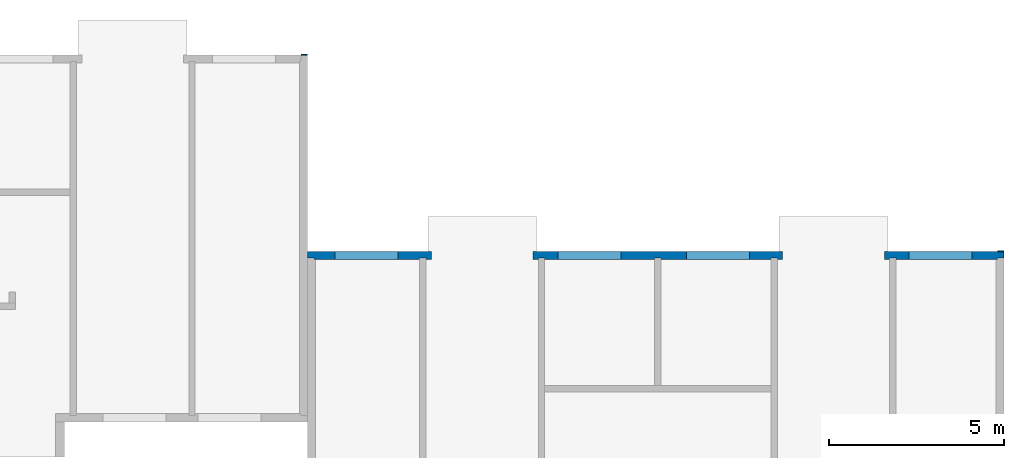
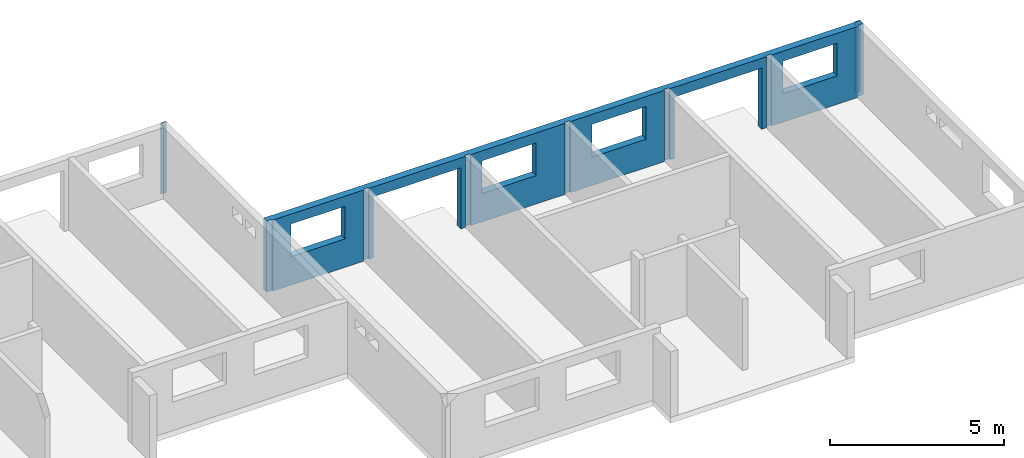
# One storey, part 9 of 9: 3 walls, 6 openings.
"""IFC2X3 building model written with IfcOpenShell, lengths in millimetres."""

from ifc_helpers import new_model, entity, si_unit, converted_unit, frame, frame_2d, origin, origin_with_axes, place, context, subcontext, project, spatial, polyline, rectangle, outline, extrude, material, layer, layer_set, layer_usage, element, save


model = new_model("IFC2X3")

# Units and contexts
model_context = context("Model", 3, precision=1e-05, world=origin())
plan_context = context("Plan", 3, precision=1e-05, world=origin())
body_context = subcontext(model_context, "Body", "Model", "MODEL_VIEW")
ifc_project = project(units=[si_unit("LENGTHUNIT", "METRE", prefix="MILLI"), converted_unit("PLANEANGLEUNIT", "DEGREE", entity("IfcPlaneAngleMeasure", 0.0174532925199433), si_unit("PLANEANGLEUNIT", "RADIAN"), dimensions=[0, 0, 0, 0, 0, 0, 0]), si_unit("AREAUNIT", "SQUARE_METRE"), si_unit("VOLUMEUNIT", "CUBIC_METRE")], contexts=[model_context, plan_context])

# Building, storey
building_placement = place(None, origin())
building = spatial("IfcBuilding", under=ifc_project, at=building_placement, Name="Bâtiment", CompositionType="ELEMENT")
storey_placement = place(building_placement, origin_with_axes())
storey = spatial("IfcBuildingStorey", under=building, at=storey_placement, Name="rdc", CompositionType="ELEMENT", Elevation=0.0)

# Wall
ifc_material_1 = material(Name="moellons")
ifc_layer_1 = layer(ifc_material_1, 20.00000000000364)
ifc_layer_set_1 = layer_set([ifc_layer_1])
ifc_layer_usage_1 = layer_usage(ifc_layer_set_1, "AXIS2", "POSITIVE", 0.0)
wall_1_placement = place(storey_placement, frame((39699.99999999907, 10470.07776548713, 0.0), z_axis=(0.0, 0.0, 1.0), x_axis=(-1.0, 0.0, 0.0)))
element("IfcWallStandardCase", 1, at=wall_1_placement, inside=storey, material=ifc_layer_usage_1, context=body_context, shape_type="SweptSolid", body=[
    extrude(rectangle(XDim=180.0, YDim=20.00000000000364, at=frame_2d((90.0, 10.00000000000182), x_axis=(1.0, 0.0))), frame((0.0, -20.00000000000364, 0.0), z_axis=(0.0, 0.0, 1.0), x_axis=(1.0, 0.0, 0.0)), (0.0, 0.0, 1.0), 2500.0),
])

# Wall, openings
ifc_material_2 = material(Name="moellons")
ifc_layer_2 = layer(ifc_material_2, 180.0)
ifc_material_3 = material(Name="briquettes")
ifc_layer_3 = layer(ifc_material_3, 40.0)
ifc_material_4 = material(Name="enduit platre")
ifc_layer_4 = layer(ifc_material_4, 10.0)
ifc_layer_set_2 = layer_set([ifc_layer_2, ifc_layer_3, ifc_layer_4])
ifc_layer_usage_2 = layer_usage(ifc_layer_set_2, "AXIS2", "POSITIVE", 0.0)
wall_2_placement = place(storey_placement, frame((59549.99999999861, 4870.077765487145, 0.0), z_axis=(0.0, 0.0, 1.0), x_axis=(-1.0, 9.163674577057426e-17, 0.0)))
wall_2 = element("IfcWallStandardCase", 2, at=wall_2_placement, inside=storey, material=ifc_layer_usage_2, context=body_context, shape_type="SweptSolid", body=[
    extrude(outline(polyline([(16649.99999999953, 179.9999999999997), (16469.99999999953, 179.9999999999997), (16469.99999999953, 229.9999999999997), (13269.99999999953, 230.0000000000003), (13269.99999999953, 179.9999999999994), (13089.99999999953, 180.0000000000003), (13089.99999999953, 230.0000000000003), (9954.999999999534, 230.0000000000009), (9954.999999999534, 180.0), (9774.999999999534, 180.0000000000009), (9774.999999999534, 230.0000000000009), (6640.000061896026, 230.0000000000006), (6640.000061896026, 179.9999999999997), (6460.000061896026, 180.0000000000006), (6460.000061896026, 230.0000000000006), (3259.999999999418, 230.0000000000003), (3259.999999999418, 180.0000000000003), (3079.999999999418, 180.0000000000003), (3079.999999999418, 230.0000000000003), (220.0, 230.0), (220.0, 220.0), (180.0, 220.0), (180.0, 180.0), (-1.649461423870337e-14, 180.0), (0.0, 0.0), (19849.99999999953, 0.0), (19849.99999999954, 180.0), (19669.99999999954, 180.0), (19669.99999999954, 220.0), (19629.99999999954, 220.0), (19629.99999999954, 230.0), (16649.99999999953, 229.9999999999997), (16649.99999999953, 179.9999999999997)])), origin_with_axes(), (0.0, 0.0, 1.0), 2500.0),
])
opening_1_placement = place(wall_2_placement, frame((17264.99999999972, -1.818989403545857e-12, 1000.0), z_axis=(0.0, 1.0, 0.0), x_axis=(0.0, 0.0, 1.0)))
element("IfcOpeningElement", 3, at=opening_1_placement, cuts=wall_2, Name="Baie de fenêtre", ObjectType="Opening", context=body_context, shape_type="SweptSolid", body=[
    extrude(rectangle(XDim=1150.0, YDim=1800.0, at=frame_2d((575.0, 900.0), x_axis=(1.0, 0.0))), origin_with_axes(), (0.0, 0.0, 1.0), 229.9999999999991),
])
opening_2_placement = place(wall_2_placement, frame((10915.00000000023, -9.094947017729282e-13, 1000.0), z_axis=(0.0, 1.0, 0.0), x_axis=(0.0, 0.0, 1.0)))
element("IfcOpeningElement", 4, at=opening_2_placement, cuts=wall_2, Name="Baie de fenêtre", ObjectType="Opening", context=body_context, shape_type="SweptSolid", body=[
    extrude(rectangle(XDim=1150.0, YDim=1800.0, at=frame_2d((575.0, 900.0), x_axis=(1.0, 0.0))), origin_with_axes(), (0.0, 0.0, 1.0), 230.0000000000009),
])
opening_3_placement = place(wall_2_placement, frame((7254.999999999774, -9.094947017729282e-13, 1000.0), z_axis=(0.0, 1.0, 0.0), x_axis=(0.0, 0.0, 1.0)))
element("IfcOpeningElement", 5, at=opening_3_placement, cuts=wall_2, Name="Baie de fenêtre", ObjectType="Opening", context=body_context, shape_type="SweptSolid", body=[
    extrude(rectangle(XDim=1150.0, YDim=1800.0, at=frame_2d((575.0, 900.0), x_axis=(1.0, 0.0))), origin_with_axes(), (0.0, 0.0, 1.0), 230.0000000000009),
])
opening_4_placement = place(wall_2_placement, frame((905.0000000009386, 0.0, 1000.0), z_axis=(0.0, 1.0, 0.0), x_axis=(0.0, 0.0, 1.0)))
element("IfcOpeningElement", 6, at=opening_4_placement, cuts=wall_2, Name="Baie de fenêtre", ObjectType="Opening", context=body_context, shape_type="SweptSolid", body=[
    extrude(rectangle(XDim=1150.0, YDim=1800.0, at=frame_2d((575.0, 900.0), x_axis=(1.0, 0.0))), origin_with_axes(), (0.0, 0.0, 1.0), 230.0),
])
opening_5_placement = place(wall_2_placement, frame((13419.99999999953, -1.818989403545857e-12, 0.0), z_axis=(0.0, 1.0, 0.0), x_axis=(0.0, 0.0, 1.0)))
element("IfcOpeningElement", 7, at=opening_5_placement, cuts=wall_2, Name="Baie de porte", ObjectType="Opening", context=body_context, shape_type="SweptSolid", body=[
    extrude(rectangle(XDim=2150.0, YDim=2900.0, at=frame_2d((1075.0, 1450.0), x_axis=(1.0, 0.0))), origin_with_axes(), (0.0, 0.0, 1.0), 230.0),
])
opening_6_placement = place(wall_2_placement, frame((3410.000030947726, -9.094947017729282e-13, 0.0), z_axis=(0.0, 1.0, 0.0), x_axis=(0.0, 0.0, 1.0)))
element("IfcOpeningElement", 8, at=opening_6_placement, cuts=wall_2, Name="Baie de porte", ObjectType="Opening", context=body_context, shape_type="SweptSolid", body=[
    extrude(rectangle(XDim=2150.0, YDim=2900.0, at=frame_2d((1075.0, 1450.0), x_axis=(1.0, 0.0))), origin_with_axes(), (0.0, 0.0, 1.0), 230.0000000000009),
])

# Wall
ifc_material_5 = material(Name="moellons")
ifc_layer_5 = layer(ifc_material_5, 20.00000000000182)
ifc_layer_set_3 = layer_set([ifc_layer_5])
ifc_layer_usage_3 = layer_usage(ifc_layer_set_3, "AXIS2", "POSITIVE", 0.0)
wall_3_placement = place(storey_placement, frame((59549.99999999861, 4870.077765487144, 0.0), z_axis=(0.0, 0.0, 1.0), x_axis=(-1.0, 0.0, 0.0)))
element("IfcWallStandardCase", 9, at=wall_3_placement, inside=storey, material=ifc_layer_usage_3, context=body_context, shape_type="SweptSolid", body=[
    extrude(rectangle(XDim=180.0, YDim=20.00000000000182, at=frame_2d((90.0, 10.00000000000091), x_axis=(1.0, 0.0))), frame((0.0, -20.00000000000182, 0.0), z_axis=(0.0, 0.0, 1.0), x_axis=(1.0, 0.0, 0.0)), (0.0, 0.0, 1.0), 2500.0),
])

save(model, "model.ifc")
